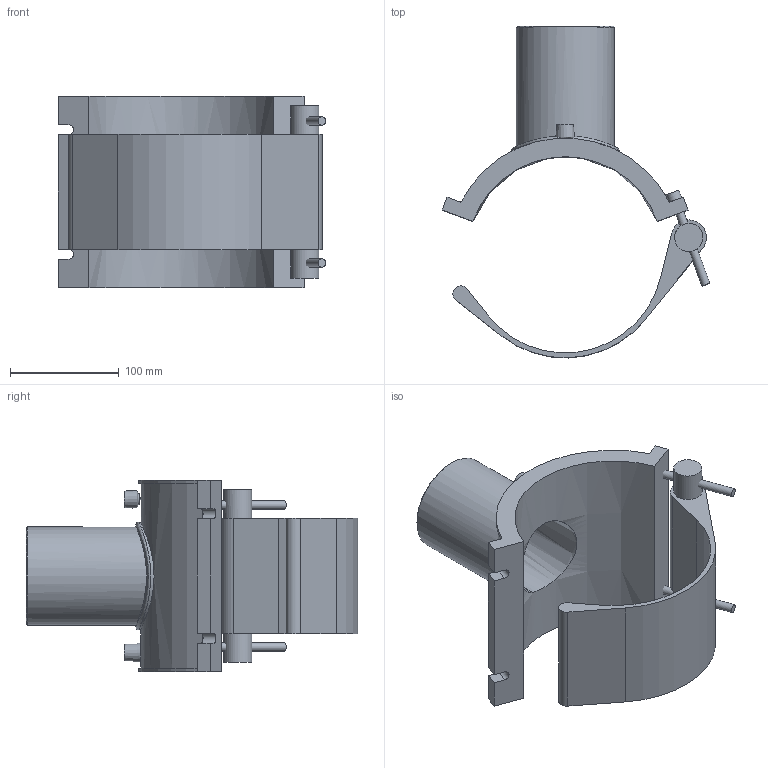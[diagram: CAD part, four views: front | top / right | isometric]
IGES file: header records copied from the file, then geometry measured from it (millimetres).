
Global section: file name: 495804180090.ipt; native system: Autodesk Inventor 2015; preprocessor: unknown; author: KIM; date: 20180426.120858; units: millimetre
Bounding box: 245.45 x 304.46 x 176 mm (x, y, z)
Volume: 1243632.6 mm3; surface area: 246244.5 mm2
Topology: 5 solids, 5 shells, 65 faces, 135 edges, 91 vertices
Faces by surface type: plane 37, cylinder 17, revolution 7, cone 3, bspline 1
Full cylindrical faces by diameter (mm): 4 x2, 7.56 x2, 12.6 x2, 25.92 x2, 90 x1, 99 x1
